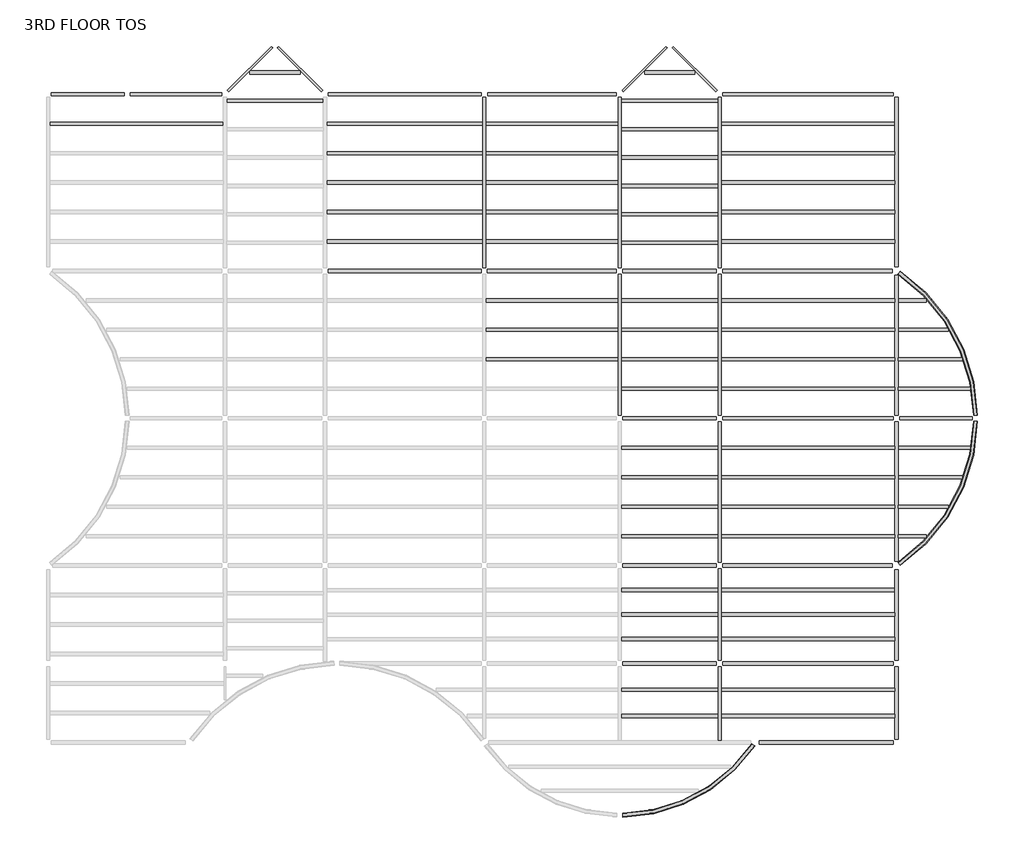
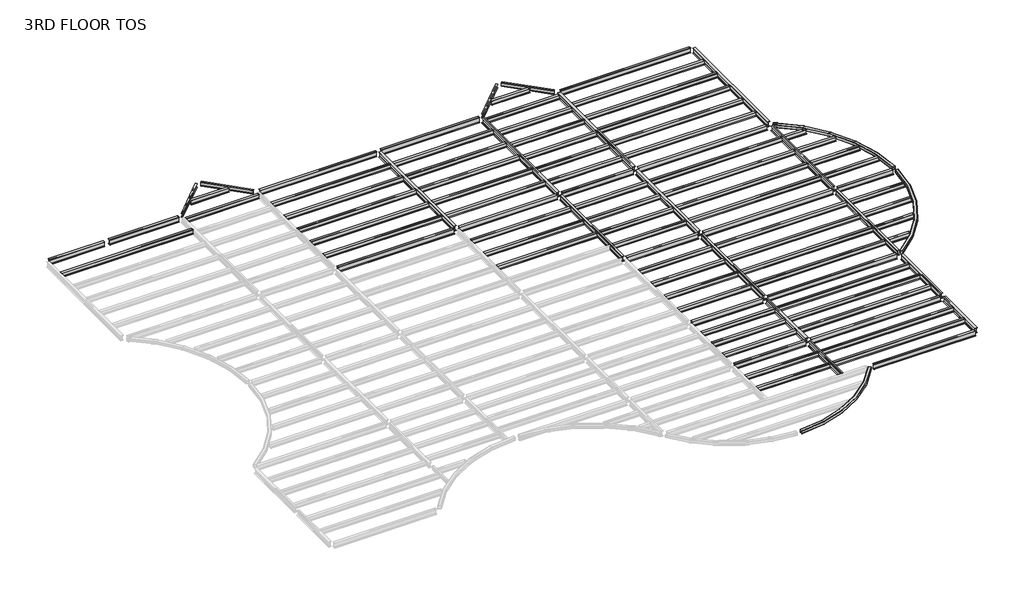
# One storey, part 2 of 2: 99 beams.
"""IFC4 building model written with IfcOpenShell, lengths in millimetres."""

from ifc_helpers import new_model, si_unit, origin, place, context, project, spatial, transform, mapped, element, save
from components import m_hss_square_hss203_2x203_2x9_5_28e91a4e, m_hss_square_hss203_2x203_2x9_5_f31329aa, m_hss_square_hss203_2x203_2x9_5_63507dff, ub_universal_beams_ub254x102x28_7812688d, ub_universal_beams_ub254x102x28_4a38c177, ub_universal_beams_ub305x165x40_c4d0385b, ub_universal_beams_ub305x165x40_19965e16, ub_universal_beams_ub305x165x40_d3abc31d, ub_universal_beams_ub305x165x40_0c73730f, ub_universal_beams_ub305x165x40_2a963f0c, ub_universal_beams_ub305x165x40_9ce7f2ee, ub_universal_beams_ub305x165x40_d184adfd, ub_universal_beams_ub305x165x40_bc7dc938, ub_universal_beams_ub305x165x40_b4233d25, ub_universal_beams_ub356x171x51_c708c058, ub_universal_beams_ub356x171x51_ef72dcdd, ub_universal_beams_ub356x171x51_10b3c54f, ub_universal_beams_ub356x171x51_4c9fd821, ub_universal_beams_ub356x171x51_d1a87c3c, ub_universal_beams_ub356x171x51_fa75724b, ub_universal_beams_ub356x171x51_68db896e, ub_universal_beams_ub356x171x51_c634c4a6, ub_universal_beams_ub356x171x51_995f1560, ub_universal_beams_ub356x171x51_dfc36663, ub_universal_beams_ub356x171x51_11d6b780, ub_universal_beams_ub356x171x51_76b2d20b, ub_universal_beams_ub356x171x51_145ecd4b, ub_universal_beams_ub356x171x51_c7dff8d2, ub_universal_beams_ub356x171x51_8a345439, ub_universal_beams_ub356x171x51_6da510e9, ub_universal_beams_ub356x171x51_e97f8d2e, ub_universal_beams_ub356x171x51_a38b99de, ub_universal_beams_ub356x171x51_d8f4cdde, ub_universal_beams_ub356x171x51_475301e6, ub_universal_beams_ub356x171x51_c03c70fb, ub_universal_beams_ub356x171x51_741bae58

model = new_model("IFC4")

# Units and contexts
model_context = context("Model", 3, world=origin())
ifc_project = project(units=[si_unit("LENGTHUNIT", "METRE", prefix="MILLI")], contexts=[model_context])

# Site, building, storey
site = spatial("IfcSite", under=ifc_project)
building = spatial("IfcBuilding", under=site)
storey = spatial("IfcBuildingStorey", under=building, Name="3RD FLOOR TOS", Elevation=13563.6)

# Beams
placement = place(None, origin())
m_hss_square_hss203_2x203_2x9_5_shape = m_hss_square_hss203_2x203_2x9_5_28e91a4e(model_context)
element("IfcBeam", 1, ObjectType="M_HSS Square : HSS203.2X203.2X9.5", at=placement, inside=storey, context=model_context, shape_type="MappedRepresentation", body=[
    mapped(m_hss_square_hss203_2x203_2x9_5_shape, transform((44027.575, 24539.575, 13462.1), x_axis=(0.8332810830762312, -0.5528495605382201, 0.0), y_axis=(0.5528495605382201, 0.8332810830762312, 0.0), z_axis=(0.0, 0.0, 1.0))),
])
m_hss_square_hss203_2x203_2x9_5_2_shape = m_hss_square_hss203_2x203_2x9_5_f31329aa(model_context)
element("IfcBeam", 2, ObjectType="M_HSS Square : HSS203.2X203.2X9.5", at=placement, inside=storey, context=model_context, shape_type="MappedRepresentation", body=[
    mapped(m_hss_square_hss203_2x203_2x9_5_2_shape, transform((44027.575, 9299.575, 13462.1), x_axis=(0.8332810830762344, 0.5528495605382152, 0.0), y_axis=(-0.5528495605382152, 0.8332810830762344, 0.0), z_axis=(0.0, 0.0, 1.0))),
])
m_hss_square_hss203_2x203_2x9_5_3_shape = m_hss_square_hss203_2x203_2x9_5_63507dff(model_context)
element("IfcBeam", 3, ObjectType="M_HSS Square : HSS203.2X203.2X9.5", at=placement, inside=storey, context=model_context, shape_type="MappedRepresentation", body=[
    mapped(m_hss_square_hss203_2x203_2x9_5_3_shape, transform((36716.575, 155.575, 13462.1), x_axis=(-0.5530174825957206, -0.8331696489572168, 0.0), y_axis=(0.8331696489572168, -0.5530174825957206, 0.0), z_axis=(0.0, 0.0, 1.0))),
])
ub_universal_beams_ub254x102x28_shape = ub_universal_beams_ub254x102x28_7812688d(model_context)
element("IfcBeam", 4, ObjectType="UB-Universal Beams : UB254x102x28", at=placement, inside=storey, context=model_context, shape_type="MappedRepresentation", body=[
    mapped(ub_universal_beams_ub254x102x28_shape, transform((10592.575, 34976.575, 13433.4), x_axis=(0.7071067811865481, 0.7071067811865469, 0.0), y_axis=(-0.7071067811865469, 0.7071067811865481, 0.0), z_axis=(0.0, 0.0, 1.0))),
])
element("IfcBeam", 5, ObjectType="UB-Universal Beams : UB254x102x28", at=placement, inside=storey, context=model_context, shape_type="MappedRepresentation", body=[
    mapped(ub_universal_beams_ub254x102x28_shape, transform((31004.575, 34976.575, 13433.4), x_axis=(0.7071067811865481, 0.7071067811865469, 0.0), y_axis=(-0.7071067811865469, 0.7071067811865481, 0.0), z_axis=(0.0, 0.0, 1.0))),
])
ub_universal_beams_ub254x102x28_2_shape = ub_universal_beams_ub254x102x28_4a38c177(model_context)
element("IfcBeam", 6, ObjectType="UB-Universal Beams : UB254x102x28", at=placement, inside=storey, context=model_context, shape_type="MappedRepresentation", body=[
    mapped(ub_universal_beams_ub254x102x28_2_shape, transform((13178.575, 34976.575, 13433.4), x_axis=(0.707106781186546, -0.707106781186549, 0.0), y_axis=(0.707106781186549, 0.707106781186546, 0.0), z_axis=(0.0, 0.0, 1.0))),
])
element("IfcBeam", 7, ObjectType="UB-Universal Beams : UB254x102x28", at=placement, inside=storey, context=model_context, shape_type="MappedRepresentation", body=[
    mapped(ub_universal_beams_ub254x102x28_2_shape, transform((33590.575, 34976.575, 13433.4), x_axis=(0.7071067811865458, -0.7071067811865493, 0.0), y_axis=(0.7071067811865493, 0.7071067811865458, 0.0), z_axis=(0.0, 0.0, 1.0))),
])
ub_universal_beams_ub305x165x40_shape = ub_universal_beams_ub305x165x40_c4d0385b(model_context)
element("IfcBeam", 8, ObjectType="UB-Universal Beams : UB305x165x40", at=placement, inside=storey, context=model_context, shape_type="MappedRepresentation", body=[
    mapped(ub_universal_beams_ub305x165x40_shape, transform((4727.575, 32159.575, 13411.9), x_axis=(1.0, 0.0, 0.0), y_axis=(0.0, 1.0, 0.0), z_axis=(0.0, 0.0, 1.0))),
])
element("IfcBeam", 9, ObjectType="UB-Universal Beams : UB305x165x40", at=placement, inside=storey, context=model_context, shape_type="MappedRepresentation", body=[
    mapped(ub_universal_beams_ub305x165x40_shape, transform((39455.575, 32159.575, 13411.9), x_axis=(1.0, 0.0, 0.0), y_axis=(0.0, 1.0, 0.0), z_axis=(0.0, 0.0, 1.0))),
])
element("IfcBeam", 10, ObjectType="UB-Universal Beams : UB305x165x40", at=placement, inside=storey, context=model_context, shape_type="MappedRepresentation", body=[
    mapped(ub_universal_beams_ub305x165x40_shape, transform((39455.575, 30635.575, 13411.9), x_axis=(1.0, 0.0, 0.0), y_axis=(0.0, 1.0, 0.0), z_axis=(0.0, 0.0, 1.0))),
])
element("IfcBeam", 11, ObjectType="UB-Universal Beams : UB305x165x40", at=placement, inside=storey, context=model_context, shape_type="MappedRepresentation", body=[
    mapped(ub_universal_beams_ub305x165x40_shape, transform((39455.575, 29111.575, 13411.9), x_axis=(1.0, 0.0, 0.0), y_axis=(0.0, 1.0, 0.0), z_axis=(0.0, 0.0, 1.0))),
])
element("IfcBeam", 12, ObjectType="UB-Universal Beams : UB305x165x40", at=placement, inside=storey, context=model_context, shape_type="MappedRepresentation", body=[
    mapped(ub_universal_beams_ub305x165x40_shape, transform((39455.575, 27587.575, 13411.9), x_axis=(1.0, 0.0, 0.0), y_axis=(0.0, 1.0, 0.0), z_axis=(0.0, 0.0, 1.0))),
])
element("IfcBeam", 13, ObjectType="UB-Universal Beams : UB305x165x40", at=placement, inside=storey, context=model_context, shape_type="MappedRepresentation", body=[
    mapped(ub_universal_beams_ub305x165x40_shape, transform((39455.575, 26063.575, 13411.9), x_axis=(1.0, 0.0, 0.0), y_axis=(0.0, 1.0, 0.0), z_axis=(0.0, 0.0, 1.0))),
])
element("IfcBeam", 14, ObjectType="UB-Universal Beams : UB305x165x40", at=placement, inside=storey, context=model_context, shape_type="MappedRepresentation", body=[
    mapped(ub_universal_beams_ub305x165x40_shape, transform((39455.575, 23015.575, 13411.9), x_axis=(1.0, 0.0, 0.0), y_axis=(0.0, 1.0, 0.0), z_axis=(0.0, 0.0, 1.0))),
])
element("IfcBeam", 15, ObjectType="UB-Universal Beams : UB305x165x40", at=placement, inside=storey, context=model_context, shape_type="MappedRepresentation", body=[
    mapped(ub_universal_beams_ub305x165x40_shape, transform((39455.575, 21491.575, 13411.9), x_axis=(1.0, 0.0, 0.0), y_axis=(0.0, 1.0, 0.0), z_axis=(0.0, 0.0, 1.0))),
])
element("IfcBeam", 16, ObjectType="UB-Universal Beams : UB305x165x40", at=placement, inside=storey, context=model_context, shape_type="MappedRepresentation", body=[
    mapped(ub_universal_beams_ub305x165x40_shape, transform((39455.575, 19967.575, 13411.9), x_axis=(1.0, 0.0, 0.0), y_axis=(0.0, 1.0, 0.0), z_axis=(0.0, 0.0, 1.0))),
])
element("IfcBeam", 17, ObjectType="UB-Universal Beams : UB305x165x40", at=placement, inside=storey, context=model_context, shape_type="MappedRepresentation", body=[
    mapped(ub_universal_beams_ub305x165x40_shape, transform((39455.575, 18443.575, 13411.9), x_axis=(1.0, 0.0, 0.0), y_axis=(0.0, 1.0, 0.0), z_axis=(0.0, 0.0, 1.0))),
])
element("IfcBeam", 18, ObjectType="UB-Universal Beams : UB305x165x40", at=placement, inside=storey, context=model_context, shape_type="MappedRepresentation", body=[
    mapped(ub_universal_beams_ub305x165x40_shape, transform((39455.575, 15395.575, 13411.9), x_axis=(1.0, 0.0, 0.0), y_axis=(0.0, 1.0, 0.0), z_axis=(0.0, 0.0, 1.0))),
])
element("IfcBeam", 19, ObjectType="UB-Universal Beams : UB305x165x40", at=placement, inside=storey, context=model_context, shape_type="MappedRepresentation", body=[
    mapped(ub_universal_beams_ub305x165x40_shape, transform((39455.575, 13871.575, 13411.9), x_axis=(1.0, 0.0, 0.0), y_axis=(0.0, 1.0, 0.0), z_axis=(0.0, 0.0, 1.0))),
])
element("IfcBeam", 20, ObjectType="UB-Universal Beams : UB305x165x40", at=placement, inside=storey, context=model_context, shape_type="MappedRepresentation", body=[
    mapped(ub_universal_beams_ub305x165x40_shape, transform((39455.575, 12347.575, 13411.9), x_axis=(1.0, 0.0, 0.0), y_axis=(0.0, 1.0, 0.0), z_axis=(0.0, 0.0, 1.0))),
])
element("IfcBeam", 21, ObjectType="UB-Universal Beams : UB305x165x40", at=placement, inside=storey, context=model_context, shape_type="MappedRepresentation", body=[
    mapped(ub_universal_beams_ub305x165x40_shape, transform((39455.575, 10823.575, 13411.9), x_axis=(1.0, 0.0, 0.0), y_axis=(0.0, 1.0, 0.0), z_axis=(0.0, 0.0, 1.0))),
])
element("IfcBeam", 22, ObjectType="UB-Universal Beams : UB305x165x40", at=placement, inside=storey, context=model_context, shape_type="MappedRepresentation", body=[
    mapped(ub_universal_beams_ub305x165x40_shape, transform((39455.575, 5508.325, 13411.9), x_axis=(-1.0, 0.0, 0.0), y_axis=(0.0, -1.0, 0.0), z_axis=(0.0, 0.0, 1.0))),
])
element("IfcBeam", 23, ObjectType="UB-Universal Beams : UB305x165x40", at=placement, inside=storey, context=model_context, shape_type="MappedRepresentation", body=[
    mapped(ub_universal_beams_ub305x165x40_shape, transform((39455.575, 6772.075, 13411.9), x_axis=(-1.0, 0.0, 0.0), y_axis=(0.0, -1.0, 0.0), z_axis=(0.0, 0.0, 1.0))),
])
element("IfcBeam", 24, ObjectType="UB-Universal Beams : UB305x165x40", at=placement, inside=storey, context=model_context, shape_type="MappedRepresentation", body=[
    mapped(ub_universal_beams_ub305x165x40_shape, transform((39455.575, 8035.825, 13411.9), x_axis=(-1.0, 0.0, 0.0), y_axis=(0.0, -1.0, 0.0), z_axis=(0.0, 0.0, 1.0))),
])
element("IfcBeam", 25, ObjectType="UB-Universal Beams : UB305x165x40", at=placement, inside=storey, context=model_context, shape_type="MappedRepresentation", body=[
    mapped(ub_universal_beams_ub305x165x40_shape, transform((39455.575, 1518.575, 13411.9), x_axis=(-1.0, 0.0, 0.0), y_axis=(0.0, -1.0, 0.0), z_axis=(0.0, 0.0, 1.0))),
])
element("IfcBeam", 26, ObjectType="UB-Universal Beams : UB305x165x40", at=placement, inside=storey, context=model_context, shape_type="MappedRepresentation", body=[
    mapped(ub_universal_beams_ub305x165x40_shape, transform((39455.575, 2881.575, 13411.9), x_axis=(-1.0, 0.0, 0.0), y_axis=(0.0, -1.0, 0.0), z_axis=(0.0, 0.0, 1.0))),
])
ub_universal_beams_ub305x165x40_2_shape = ub_universal_beams_ub305x165x40_19965e16(model_context)
element("IfcBeam", 27, ObjectType="UB-Universal Beams : UB305x165x40", at=placement, inside=storey, context=model_context, shape_type="MappedRepresentation", body=[
    mapped(ub_universal_beams_ub305x165x40_2_shape, transform((11885.575, 34803.325, 13411.9), x_axis=(1.0, 0.0, 0.0), y_axis=(0.0, 1.0, 0.0), z_axis=(0.0, 0.0, 1.0))),
])
element("IfcBeam", 28, ObjectType="UB-Universal Beams : UB305x165x40", at=placement, inside=storey, context=model_context, shape_type="MappedRepresentation", body=[
    mapped(ub_universal_beams_ub305x165x40_2_shape, transform((32297.575, 34803.325, 13411.9), x_axis=(1.0, 0.0, 0.0), y_axis=(0.0, 1.0, 0.0), z_axis=(0.0, 0.0, 1.0))),
])
ub_universal_beams_ub305x165x40_3_shape = ub_universal_beams_ub305x165x40_d3abc31d(model_context)
element("IfcBeam", 29, ObjectType="UB-Universal Beams : UB305x165x40", at=placement, inside=storey, context=model_context, shape_type="MappedRepresentation", body=[
    mapped(ub_universal_beams_ub305x165x40_3_shape, transform((11885.575, 33337.075, 13411.9), x_axis=(1.0, 0.0, 0.0), y_axis=(0.0, 1.0, 0.0), z_axis=(0.0, 0.0, 1.0))),
])
element("IfcBeam", 30, ObjectType="UB-Universal Beams : UB305x165x40", at=placement, inside=storey, context=model_context, shape_type="MappedRepresentation", body=[
    mapped(ub_universal_beams_ub305x165x40_3_shape, transform((32297.575, 33337.075, 13411.9), x_axis=(1.0, 0.0, 0.0), y_axis=(0.0, 1.0, 0.0), z_axis=(0.0, 0.0, 1.0))),
])
element("IfcBeam", 31, ObjectType="UB-Universal Beams : UB305x165x40", at=placement, inside=storey, context=model_context, shape_type="MappedRepresentation", body=[
    mapped(ub_universal_beams_ub305x165x40_3_shape, transform((32297.575, 31870.825, 13411.9), x_axis=(1.0, 0.0, 0.0), y_axis=(0.0, 1.0, 0.0), z_axis=(0.0, 0.0, 1.0))),
])
element("IfcBeam", 32, ObjectType="UB-Universal Beams : UB305x165x40", at=placement, inside=storey, context=model_context, shape_type="MappedRepresentation", body=[
    mapped(ub_universal_beams_ub305x165x40_3_shape, transform((32297.575, 30404.575, 13411.9), x_axis=(1.0, 0.0, 0.0), y_axis=(0.0, 1.0, 0.0), z_axis=(0.0, 0.0, 1.0))),
])
element("IfcBeam", 33, ObjectType="UB-Universal Beams : UB305x165x40", at=placement, inside=storey, context=model_context, shape_type="MappedRepresentation", body=[
    mapped(ub_universal_beams_ub305x165x40_3_shape, transform((32297.575, 28938.325, 13411.9), x_axis=(1.0, 0.0, 0.0), y_axis=(0.0, 1.0, 0.0), z_axis=(0.0, 0.0, 1.0))),
])
element("IfcBeam", 34, ObjectType="UB-Universal Beams : UB305x165x40", at=placement, inside=storey, context=model_context, shape_type="MappedRepresentation", body=[
    mapped(ub_universal_beams_ub305x165x40_3_shape, transform((32297.575, 27472.075, 13411.9), x_axis=(1.0, 0.0, 0.0), y_axis=(0.0, 1.0, 0.0), z_axis=(0.0, 0.0, 1.0))),
])
element("IfcBeam", 35, ObjectType="UB-Universal Beams : UB305x165x40", at=placement, inside=storey, context=model_context, shape_type="MappedRepresentation", body=[
    mapped(ub_universal_beams_ub305x165x40_3_shape, transform((32297.575, 26005.825, 13411.9), x_axis=(1.0, 0.0, 0.0), y_axis=(0.0, 1.0, 0.0), z_axis=(0.0, 0.0, 1.0))),
])
element("IfcBeam", 36, ObjectType="UB-Universal Beams : UB305x165x40", at=placement, inside=storey, context=model_context, shape_type="MappedRepresentation", body=[
    mapped(ub_universal_beams_ub305x165x40_3_shape, transform((32297.575, 1518.575, 13411.9), x_axis=(-1.0, 0.0, 0.0), y_axis=(0.0, -1.0, 0.0), z_axis=(0.0, 0.0, 1.0))),
])
element("IfcBeam", 37, ObjectType="UB-Universal Beams : UB305x165x40", at=placement, inside=storey, context=model_context, shape_type="MappedRepresentation", body=[
    mapped(ub_universal_beams_ub305x165x40_3_shape, transform((32297.575, 2881.575, 13411.9), x_axis=(-1.0, 0.0, 0.0), y_axis=(0.0, -1.0, 0.0), z_axis=(0.0, 0.0, 1.0))),
])
element("IfcBeam", 38, ObjectType="UB-Universal Beams : UB305x165x40", at=placement, inside=storey, context=model_context, shape_type="MappedRepresentation", body=[
    mapped(ub_universal_beams_ub305x165x40_3_shape, transform((32297.575, 5508.325, 13411.9), x_axis=(-1.0, 0.0, 0.0), y_axis=(0.0, -1.0, 0.0), z_axis=(0.0, 0.0, 1.0))),
])
element("IfcBeam", 39, ObjectType="UB-Universal Beams : UB305x165x40", at=placement, inside=storey, context=model_context, shape_type="MappedRepresentation", body=[
    mapped(ub_universal_beams_ub305x165x40_3_shape, transform((32297.575, 6772.075, 13411.9), x_axis=(-1.0, 0.0, 0.0), y_axis=(0.0, -1.0, 0.0), z_axis=(0.0, 0.0, 1.0))),
])
element("IfcBeam", 40, ObjectType="UB-Universal Beams : UB305x165x40", at=placement, inside=storey, context=model_context, shape_type="MappedRepresentation", body=[
    mapped(ub_universal_beams_ub305x165x40_3_shape, transform((32297.575, 8035.825, 13411.9), x_axis=(-1.0, 0.0, 0.0), y_axis=(0.0, -1.0, 0.0), z_axis=(0.0, 0.0, 1.0))),
])
element("IfcBeam", 41, ObjectType="UB-Universal Beams : UB305x165x40", at=placement, inside=storey, context=model_context, shape_type="MappedRepresentation", body=[
    mapped(ub_universal_beams_ub305x165x40_3_shape, transform((32297.575, 15395.575, 13411.9), x_axis=(1.0, 0.0, 0.0), y_axis=(0.0, 1.0, 0.0), z_axis=(0.0, 0.0, 1.0))),
])
element("IfcBeam", 42, ObjectType="UB-Universal Beams : UB305x165x40", at=placement, inside=storey, context=model_context, shape_type="MappedRepresentation", body=[
    mapped(ub_universal_beams_ub305x165x40_3_shape, transform((32297.575, 13871.575, 13411.9), x_axis=(1.0, 0.0, 0.0), y_axis=(0.0, 1.0, 0.0), z_axis=(0.0, 0.0, 1.0))),
])
element("IfcBeam", 43, ObjectType="UB-Universal Beams : UB305x165x40", at=placement, inside=storey, context=model_context, shape_type="MappedRepresentation", body=[
    mapped(ub_universal_beams_ub305x165x40_3_shape, transform((32297.575, 12347.575, 13411.9), x_axis=(1.0, 0.0, 0.0), y_axis=(0.0, 1.0, 0.0), z_axis=(0.0, 0.0, 1.0))),
])
element("IfcBeam", 44, ObjectType="UB-Universal Beams : UB305x165x40", at=placement, inside=storey, context=model_context, shape_type="MappedRepresentation", body=[
    mapped(ub_universal_beams_ub305x165x40_3_shape, transform((32297.575, 10823.575, 13411.9), x_axis=(1.0, 0.0, 0.0), y_axis=(0.0, 1.0, 0.0), z_axis=(0.0, 0.0, 1.0))),
])
element("IfcBeam", 45, ObjectType="UB-Universal Beams : UB305x165x40", at=placement, inside=storey, context=model_context, shape_type="MappedRepresentation", body=[
    mapped(ub_universal_beams_ub305x165x40_3_shape, transform((32297.575, 23015.575, 13411.9), x_axis=(1.0, 0.0, 0.0), y_axis=(0.0, 1.0, 0.0), z_axis=(0.0, 0.0, 1.0))),
])
element("IfcBeam", 46, ObjectType="UB-Universal Beams : UB305x165x40", at=placement, inside=storey, context=model_context, shape_type="MappedRepresentation", body=[
    mapped(ub_universal_beams_ub305x165x40_3_shape, transform((32297.575, 21491.575, 13411.9), x_axis=(1.0, 0.0, 0.0), y_axis=(0.0, 1.0, 0.0), z_axis=(0.0, 0.0, 1.0))),
])
element("IfcBeam", 47, ObjectType="UB-Universal Beams : UB305x165x40", at=placement, inside=storey, context=model_context, shape_type="MappedRepresentation", body=[
    mapped(ub_universal_beams_ub305x165x40_3_shape, transform((32297.575, 19967.575, 13411.9), x_axis=(1.0, 0.0, 0.0), y_axis=(0.0, 1.0, 0.0), z_axis=(0.0, 0.0, 1.0))),
])
element("IfcBeam", 48, ObjectType="UB-Universal Beams : UB305x165x40", at=placement, inside=storey, context=model_context, shape_type="MappedRepresentation", body=[
    mapped(ub_universal_beams_ub305x165x40_3_shape, transform((32297.575, 18443.575, 13411.9), x_axis=(1.0, 0.0, 0.0), y_axis=(0.0, 1.0, 0.0), z_axis=(0.0, 0.0, 1.0))),
])
ub_universal_beams_ub305x165x40_4_shape = ub_universal_beams_ub305x165x40_0c73730f(model_context)
element("IfcBeam", 49, ObjectType="UB-Universal Beams : UB305x165x40", at=placement, inside=storey, context=model_context, shape_type="MappedRepresentation", body=[
    mapped(ub_universal_beams_ub305x165x40_4_shape, transform((18591.075, 32159.575, 13411.9), x_axis=(1.0, 0.0, 0.0), y_axis=(0.0, 1.0, 0.0), z_axis=(0.0, 0.0, 1.0))),
])
element("IfcBeam", 50, ObjectType="UB-Universal Beams : UB305x165x40", at=placement, inside=storey, context=model_context, shape_type="MappedRepresentation", body=[
    mapped(ub_universal_beams_ub305x165x40_4_shape, transform((18591.075, 30635.575, 13411.9), x_axis=(1.0, 0.0, 0.0), y_axis=(0.0, 1.0, 0.0), z_axis=(0.0, 0.0, 1.0))),
])
element("IfcBeam", 51, ObjectType="UB-Universal Beams : UB305x165x40", at=placement, inside=storey, context=model_context, shape_type="MappedRepresentation", body=[
    mapped(ub_universal_beams_ub305x165x40_4_shape, transform((18591.075, 29111.575, 13411.9), x_axis=(1.0, 0.0, 0.0), y_axis=(0.0, 1.0, 0.0), z_axis=(0.0, 0.0, 1.0))),
])
element("IfcBeam", 52, ObjectType="UB-Universal Beams : UB305x165x40", at=placement, inside=storey, context=model_context, shape_type="MappedRepresentation", body=[
    mapped(ub_universal_beams_ub305x165x40_4_shape, transform((18591.075, 27587.575, 13411.9), x_axis=(1.0, 0.0, 0.0), y_axis=(0.0, 1.0, 0.0), z_axis=(0.0, 0.0, 1.0))),
])
element("IfcBeam", 53, ObjectType="UB-Universal Beams : UB305x165x40", at=placement, inside=storey, context=model_context, shape_type="MappedRepresentation", body=[
    mapped(ub_universal_beams_ub305x165x40_4_shape, transform((18591.075, 26063.575, 13411.9), x_axis=(1.0, 0.0, 0.0), y_axis=(0.0, 1.0, 0.0), z_axis=(0.0, 0.0, 1.0))),
])
ub_universal_beams_ub305x165x40_5_shape = ub_universal_beams_ub305x165x40_2a963f0c(model_context)
element("IfcBeam", 54, ObjectType="UB-Universal Beams : UB305x165x40", at=placement, inside=storey, context=model_context, shape_type="MappedRepresentation", body=[
    mapped(ub_universal_beams_ub305x165x40_5_shape, transform((26211.075, 32159.575, 13411.9), x_axis=(1.0, 0.0, 0.0), y_axis=(0.0, 1.0, 0.0), z_axis=(0.0, 0.0, 1.0))),
])
element("IfcBeam", 55, ObjectType="UB-Universal Beams : UB305x165x40", at=placement, inside=storey, context=model_context, shape_type="MappedRepresentation", body=[
    mapped(ub_universal_beams_ub305x165x40_5_shape, transform((26211.075, 30635.575, 13411.9), x_axis=(1.0, 0.0, 0.0), y_axis=(0.0, 1.0, 0.0), z_axis=(0.0, 0.0, 1.0))),
])
element("IfcBeam", 56, ObjectType="UB-Universal Beams : UB305x165x40", at=placement, inside=storey, context=model_context, shape_type="MappedRepresentation", body=[
    mapped(ub_universal_beams_ub305x165x40_5_shape, transform((26211.075, 29111.575, 13411.9), x_axis=(1.0, 0.0, 0.0), y_axis=(0.0, 1.0, 0.0), z_axis=(0.0, 0.0, 1.0))),
])
element("IfcBeam", 57, ObjectType="UB-Universal Beams : UB305x165x40", at=placement, inside=storey, context=model_context, shape_type="MappedRepresentation", body=[
    mapped(ub_universal_beams_ub305x165x40_5_shape, transform((26211.075, 27587.575, 13411.9), x_axis=(1.0, 0.0, 0.0), y_axis=(0.0, 1.0, 0.0), z_axis=(0.0, 0.0, 1.0))),
])
element("IfcBeam", 58, ObjectType="UB-Universal Beams : UB305x165x40", at=placement, inside=storey, context=model_context, shape_type="MappedRepresentation", body=[
    mapped(ub_universal_beams_ub305x165x40_5_shape, transform((26211.075, 26063.575, 13411.9), x_axis=(1.0, 0.0, 0.0), y_axis=(0.0, 1.0, 0.0), z_axis=(0.0, 0.0, 1.0))),
])
element("IfcBeam", 59, ObjectType="UB-Universal Beams : UB305x165x40", at=placement, inside=storey, context=model_context, shape_type="MappedRepresentation", body=[
    mapped(ub_universal_beams_ub305x165x40_5_shape, transform((26211.075, 23015.575, 13411.9), x_axis=(1.0, 0.0, 0.0), y_axis=(0.0, 1.0, 0.0), z_axis=(0.0, 0.0, 1.0))),
])
element("IfcBeam", 60, ObjectType="UB-Universal Beams : UB305x165x40", at=placement, inside=storey, context=model_context, shape_type="MappedRepresentation", body=[
    mapped(ub_universal_beams_ub305x165x40_5_shape, transform((26211.075, 21491.575, 13411.9), x_axis=(1.0, 0.0, 0.0), y_axis=(0.0, 1.0, 0.0), z_axis=(0.0, 0.0, 1.0))),
])
element("IfcBeam", 61, ObjectType="UB-Universal Beams : UB305x165x40", at=placement, inside=storey, context=model_context, shape_type="MappedRepresentation", body=[
    mapped(ub_universal_beams_ub305x165x40_5_shape, transform((26211.075, 19967.575, 13411.9), x_axis=(1.0, 0.0, 0.0), y_axis=(0.0, 1.0, 0.0), z_axis=(0.0, 0.0, 1.0))),
])
ub_universal_beams_ub305x165x40_6_shape = ub_universal_beams_ub305x165x40_9ce7f2ee(model_context)
element("IfcBeam", 62, ObjectType="UB-Universal Beams : UB305x165x40", at=placement, inside=storey, context=model_context, shape_type="MappedRepresentation", body=[
    mapped(ub_universal_beams_ub305x165x40_6_shape, transform((44907.9405309, 23015.575, 13411.9), x_axis=(1.0, 0.0, 0.0), y_axis=(0.0, 1.0, 0.0), z_axis=(0.0, 0.0, 1.0))),
])
element("IfcBeam", 63, ObjectType="UB-Universal Beams : UB305x165x40", at=placement, inside=storey, context=model_context, shape_type="MappedRepresentation", body=[
    mapped(ub_universal_beams_ub305x165x40_6_shape, transform((44907.9405309, 10823.575, 13411.9), x_axis=(1.0, 0.0, 0.0), y_axis=(0.0, 1.0, 0.0), z_axis=(0.0, 0.0, 1.0))),
])
ub_universal_beams_ub305x165x40_7_shape = ub_universal_beams_ub305x165x40_d184adfd(model_context)
element("IfcBeam", 64, ObjectType="UB-Universal Beams : UB305x165x40", at=placement, inside=storey, context=model_context, shape_type="MappedRepresentation", body=[
    mapped(ub_universal_beams_ub305x165x40_7_shape, transform((45459.5874928, 21491.575, 13411.9), x_axis=(1.0, 0.0, 0.0), y_axis=(0.0, 1.0, 0.0), z_axis=(0.0, 0.0, 1.0))),
])
element("IfcBeam", 65, ObjectType="UB-Universal Beams : UB305x165x40", at=placement, inside=storey, context=model_context, shape_type="MappedRepresentation", body=[
    mapped(ub_universal_beams_ub305x165x40_7_shape, transform((45459.5874928, 12347.575, 13411.9), x_axis=(1.0, 0.0, 0.0), y_axis=(0.0, 1.0, 0.0), z_axis=(0.0, 0.0, 1.0))),
])
ub_universal_beams_ub305x165x40_8_shape = ub_universal_beams_ub305x165x40_bc7dc938(model_context)
element("IfcBeam", 66, ObjectType="UB-Universal Beams : UB305x165x40", at=placement, inside=storey, context=model_context, shape_type="MappedRepresentation", body=[
    mapped(ub_universal_beams_ub305x165x40_8_shape, transform((45810.6153272, 19967.575, 13411.9), x_axis=(1.0, 0.0, 0.0), y_axis=(0.0, 1.0, 0.0), z_axis=(0.0, 0.0, 1.0))),
])
element("IfcBeam", 67, ObjectType="UB-Universal Beams : UB305x165x40", at=placement, inside=storey, context=model_context, shape_type="MappedRepresentation", body=[
    mapped(ub_universal_beams_ub305x165x40_8_shape, transform((45810.6153272, 13871.575, 13411.9), x_axis=(1.0, 0.0, 0.0), y_axis=(0.0, 1.0, 0.0), z_axis=(0.0, 0.0, 1.0))),
])
ub_universal_beams_ub305x165x40_9_shape = ub_universal_beams_ub305x165x40_b4233d25(model_context)
element("IfcBeam", 68, ObjectType="UB-Universal Beams : UB305x165x40", at=placement, inside=storey, context=model_context, shape_type="MappedRepresentation", body=[
    mapped(ub_universal_beams_ub305x165x40_9_shape, transform((46008.1318611, 18443.575, 13411.9), x_axis=(1.0, 0.0, 0.0), y_axis=(0.0, 1.0, 0.0), z_axis=(0.0, 0.0, 1.0))),
])
element("IfcBeam", 69, ObjectType="UB-Universal Beams : UB305x165x40", at=placement, inside=storey, context=model_context, shape_type="MappedRepresentation", body=[
    mapped(ub_universal_beams_ub305x165x40_9_shape, transform((46008.1318611, 15395.575, 13411.9), x_axis=(1.0, 0.0, 0.0), y_axis=(0.0, 1.0, 0.0), z_axis=(0.0, 0.0, 1.0))),
])
ub_universal_beams_ub356x171x51_shape = ub_universal_beams_ub356x171x51_c708c058(model_context)
element("IfcBeam", 70, ObjectType="UB-Universal Beams : UB356x171x51", at=placement, inside=storey, context=model_context, shape_type="MappedRepresentation", body=[
    mapped(ub_universal_beams_ub356x171x51_shape, transform((2200.075, 33683.575, 13386.1), x_axis=(1.0, 0.0, 0.0), y_axis=(0.0, 1.0, 0.0), z_axis=(0.0, 0.0, 1.0))),
])
ub_universal_beams_ub356x171x51_2_shape = ub_universal_beams_ub356x171x51_ef72dcdd(model_context)
element("IfcBeam", 71, ObjectType="UB-Universal Beams : UB356x171x51", at=placement, inside=storey, context=model_context, shape_type="MappedRepresentation", body=[
    mapped(ub_universal_beams_ub356x171x51_2_shape, transform((6772.075, 33683.575, 13386.1), x_axis=(1.0, 0.0, 0.0), y_axis=(0.0, 1.0, 0.0), z_axis=(0.0, 0.0, 1.0))),
])
element("IfcBeam", 72, ObjectType="UB-Universal Beams : UB356x171x51", at=placement, inside=storey, context=model_context, shape_type="MappedRepresentation", body=[
    mapped(ub_universal_beams_ub356x171x51_2_shape, transform((34883.575, 6772.075, 13386.1), x_axis=(0.0, -1.0, 0.0), y_axis=(1.0, 0.0, 0.0), z_axis=(0.0, 0.0, 1.0))),
])
ub_universal_beams_ub356x171x51_3_shape = ub_universal_beams_ub356x171x51_10b3c54f(model_context)
element("IfcBeam", 73, ObjectType="UB-Universal Beams : UB356x171x51", at=placement, inside=storey, context=model_context, shape_type="MappedRepresentation", body=[
    mapped(ub_universal_beams_ub356x171x51_3_shape, transform((18591.075, 33683.575, 13386.1), x_axis=(1.0, 0.0, 0.0), y_axis=(0.0, 1.0, 0.0), z_axis=(0.0, 0.0, 1.0))),
])
ub_universal_beams_ub356x171x51_4_shape = ub_universal_beams_ub356x171x51_4c9fd821(model_context)
element("IfcBeam", 74, ObjectType="UB-Universal Beams : UB356x171x51", at=placement, inside=storey, context=model_context, shape_type="MappedRepresentation", body=[
    mapped(ub_universal_beams_ub356x171x51_4_shape, transform((26211.075, 33683.575, 13386.1), x_axis=(1.0, 0.0, 0.0), y_axis=(0.0, 1.0, 0.0), z_axis=(0.0, 0.0, 1.0))),
])
ub_universal_beams_ub356x171x51_5_shape = ub_universal_beams_ub356x171x51_d1a87c3c(model_context)
element("IfcBeam", 75, ObjectType="UB-Universal Beams : UB356x171x51", at=placement, inside=storey, context=model_context, shape_type="MappedRepresentation", body=[
    mapped(ub_universal_beams_ub356x171x51_5_shape, transform((39455.575, 33683.575, 13386.1), x_axis=(1.0, 0.0, 0.0), y_axis=(0.0, 1.0, 0.0), z_axis=(0.0, 0.0, 1.0))),
])
ub_universal_beams_ub356x171x51_6_shape = ub_universal_beams_ub356x171x51_fa75724b(model_context)
element("IfcBeam", 76, ObjectType="UB-Universal Beams : UB356x171x51", at=placement, inside=storey, context=model_context, shape_type="MappedRepresentation", body=[
    mapped(ub_universal_beams_ub356x171x51_6_shape, transform((44027.575, 29111.575, 13386.1), x_axis=(0.0, -1.0, 0.0), y_axis=(1.0, 0.0, 0.0), z_axis=(0.0, 0.0, 1.0))),
])
ub_universal_beams_ub356x171x51_7_shape = ub_universal_beams_ub356x171x51_68db896e(model_context)
element("IfcBeam", 77, ObjectType="UB-Universal Beams : UB356x171x51", at=placement, inside=storey, context=model_context, shape_type="MappedRepresentation", body=[
    mapped(ub_universal_beams_ub356x171x51_7_shape, transform((44027.575, 6772.075, 13386.1), x_axis=(0.0, -1.0, 0.0), y_axis=(1.0, 0.0, 0.0), z_axis=(0.0, 0.0, 1.0))),
])
ub_universal_beams_ub356x171x51_8_shape = ub_universal_beams_ub356x171x51_c634c4a6(model_context)
element("IfcBeam", 78, ObjectType="UB-Universal Beams : UB356x171x51", at=placement, inside=storey, context=model_context, shape_type="MappedRepresentation", body=[
    mapped(ub_universal_beams_ub356x171x51_8_shape, transform((44027.575, 2200.075, 13386.1), x_axis=(0.0, -1.0, 0.0), y_axis=(1.0, 0.0, 0.0), z_axis=(0.0, 0.0, 1.0))),
])
ub_universal_beams_ub356x171x51_9_shape = ub_universal_beams_ub356x171x51_995f1560(model_context)
element("IfcBeam", 79, ObjectType="UB-Universal Beams : UB356x171x51", at=placement, inside=storey, context=model_context, shape_type="MappedRepresentation", body=[
    mapped(ub_universal_beams_ub356x171x51_9_shape, transform((40372.075, 155.575, 13386.1), x_axis=(-1.0, 0.0, 0.0), y_axis=(0.0, -1.0, 0.0), z_axis=(0.0, 0.0, 1.0))),
])
ub_universal_beams_ub356x171x51_10_shape = ub_universal_beams_ub356x171x51_dfc36663(model_context)
element("IfcBeam", 80, ObjectType="UB-Universal Beams : UB356x171x51", at=placement, inside=storey, context=model_context, shape_type="MappedRepresentation", body=[
    mapped(ub_universal_beams_ub356x171x51_10_shape, transform((46072.075, 16919.575, 13386.1), x_axis=(1.0, 0.0, 0.0), y_axis=(0.0, 1.0, 0.0), z_axis=(0.0, 0.0, 1.0))),
])
ub_universal_beams_ub356x171x51_11_shape = ub_universal_beams_ub356x171x51_11d6b780(model_context)
element("IfcBeam", 81, ObjectType="UB-Universal Beams : UB356x171x51", at=placement, inside=storey, context=model_context, shape_type="MappedRepresentation", body=[
    mapped(ub_universal_beams_ub356x171x51_11_shape, transform((32297.575, 24539.575, 13386.1), x_axis=(1.0, 0.0, 0.0), y_axis=(0.0, 1.0, 0.0), z_axis=(0.0, 0.0, 1.0))),
])
element("IfcBeam", 82, ObjectType="UB-Universal Beams : UB356x171x51", at=placement, inside=storey, context=model_context, shape_type="MappedRepresentation", body=[
    mapped(ub_universal_beams_ub356x171x51_11_shape, transform((32297.575, 9299.575, 13386.1), x_axis=(-1.0, 0.0, 0.0), y_axis=(0.0, -1.0, 0.0), z_axis=(0.0, 0.0, 1.0))),
])
element("IfcBeam", 83, ObjectType="UB-Universal Beams : UB356x171x51", at=placement, inside=storey, context=model_context, shape_type="MappedRepresentation", body=[
    mapped(ub_universal_beams_ub356x171x51_11_shape, transform((32297.575, 16919.575, 13386.1), x_axis=(1.0, 0.0, 0.0), y_axis=(0.0, 1.0, 0.0), z_axis=(0.0, 0.0, 1.0))),
])
element("IfcBeam", 84, ObjectType="UB-Universal Beams : UB356x171x51", at=placement, inside=storey, context=model_context, shape_type="MappedRepresentation", body=[
    mapped(ub_universal_beams_ub356x171x51_11_shape, transform((32297.575, 4244.575, 13386.1), x_axis=(-1.0, 0.0, 0.0), y_axis=(0.0, -1.0, 0.0), z_axis=(0.0, 0.0, 1.0))),
])
ub_universal_beams_ub356x171x51_12_shape = ub_universal_beams_ub356x171x51_76b2d20b(model_context)
element("IfcBeam", 85, ObjectType="UB-Universal Beams : UB356x171x51", at=placement, inside=storey, context=model_context, shape_type="MappedRepresentation", body=[
    mapped(ub_universal_beams_ub356x171x51_12_shape, transform((18591.075, 24539.575, 13386.1), x_axis=(1.0, 0.0, 0.0), y_axis=(0.0, 1.0, 0.0), z_axis=(0.0, 0.0, 1.0))),
])
ub_universal_beams_ub356x171x51_13_shape = ub_universal_beams_ub356x171x51_145ecd4b(model_context)
element("IfcBeam", 86, ObjectType="UB-Universal Beams : UB356x171x51", at=placement, inside=storey, context=model_context, shape_type="MappedRepresentation", body=[
    mapped(ub_universal_beams_ub356x171x51_13_shape, transform((26211.075, 24539.575, 13386.1), x_axis=(1.0, 0.0, 0.0), y_axis=(0.0, 1.0, 0.0), z_axis=(0.0, 0.0, 1.0))),
])
ub_universal_beams_ub356x171x51_14_shape = ub_universal_beams_ub356x171x51_c7dff8d2(model_context)
element("IfcBeam", 87, ObjectType="UB-Universal Beams : UB356x171x51", at=placement, inside=storey, context=model_context, shape_type="MappedRepresentation", body=[
    mapped(ub_universal_beams_ub356x171x51_14_shape, transform((39455.575, 24539.575, 13386.1), x_axis=(1.0, 0.0, 0.0), y_axis=(0.0, 1.0, 0.0), z_axis=(0.0, 0.0, 1.0))),
])
ub_universal_beams_ub356x171x51_15_shape = ub_universal_beams_ub356x171x51_8a345439(model_context)
element("IfcBeam", 88, ObjectType="UB-Universal Beams : UB356x171x51", at=placement, inside=storey, context=model_context, shape_type="MappedRepresentation", body=[
    mapped(ub_universal_beams_ub356x171x51_15_shape, transform((44027.575, 20729.575, 13386.1), x_axis=(0.0, -1.0, 0.0), y_axis=(1.0, 0.0, 0.0), z_axis=(0.0, 0.0, 1.0))),
])
ub_universal_beams_ub356x171x51_16_shape = ub_universal_beams_ub356x171x51_6da510e9(model_context)
element("IfcBeam", 89, ObjectType="UB-Universal Beams : UB356x171x51", at=placement, inside=storey, context=model_context, shape_type="MappedRepresentation", body=[
    mapped(ub_universal_beams_ub356x171x51_16_shape, transform((44027.575, 13109.575, 13386.1), x_axis=(0.0, -1.0, 0.0), y_axis=(1.0, 0.0, 0.0), z_axis=(0.0, 0.0, 1.0))),
])
ub_universal_beams_ub356x171x51_17_shape = ub_universal_beams_ub356x171x51_e97f8d2e(model_context)
element("IfcBeam", 90, ObjectType="UB-Universal Beams : UB356x171x51", at=placement, inside=storey, context=model_context, shape_type="MappedRepresentation", body=[
    mapped(ub_universal_beams_ub356x171x51_17_shape, transform((39455.575, 9299.575, 13386.1), x_axis=(-1.0, 0.0, 0.0), y_axis=(0.0, -1.0, 0.0), z_axis=(0.0, 0.0, 1.0))),
])
ub_universal_beams_ub356x171x51_18_shape = ub_universal_beams_ub356x171x51_a38b99de(model_context)
element("IfcBeam", 91, ObjectType="UB-Universal Beams : UB356x171x51", at=placement, inside=storey, context=model_context, shape_type="MappedRepresentation", body=[
    mapped(ub_universal_beams_ub356x171x51_18_shape, transform((34883.575, 20729.575, 13386.1), x_axis=(0.0, -1.0, 0.0), y_axis=(1.0, 0.0, 0.0), z_axis=(0.0, 0.0, 1.0))),
])
element("IfcBeam", 92, ObjectType="UB-Universal Beams : UB356x171x51", at=placement, inside=storey, context=model_context, shape_type="MappedRepresentation", body=[
    mapped(ub_universal_beams_ub356x171x51_18_shape, transform((34883.575, 13109.575, 13386.1), x_axis=(0.0, -1.0, 0.0), y_axis=(1.0, 0.0, 0.0), z_axis=(0.0, 0.0, 1.0))),
])
element("IfcBeam", 93, ObjectType="UB-Universal Beams : UB356x171x51", at=placement, inside=storey, context=model_context, shape_type="MappedRepresentation", body=[
    mapped(ub_universal_beams_ub356x171x51_18_shape, transform((29711.575, 20729.575, 13386.1), x_axis=(0.0, 1.0, 0.0), y_axis=(-1.0, 0.0, 0.0), z_axis=(0.0, 0.0, 1.0))),
])
ub_universal_beams_ub356x171x51_19_shape = ub_universal_beams_ub356x171x51_d8f4cdde(model_context)
element("IfcBeam", 94, ObjectType="UB-Universal Beams : UB356x171x51", at=placement, inside=storey, context=model_context, shape_type="MappedRepresentation", body=[
    mapped(ub_universal_beams_ub356x171x51_19_shape, transform((29711.575, 29111.575, 13386.1), x_axis=(0.0, 1.0, 0.0), y_axis=(-1.0, 0.0, 0.0), z_axis=(0.0, 0.0, 1.0))),
])
ub_universal_beams_ub356x171x51_20_shape = ub_universal_beams_ub356x171x51_475301e6(model_context)
element("IfcBeam", 95, ObjectType="UB-Universal Beams : UB356x171x51", at=placement, inside=storey, context=model_context, shape_type="MappedRepresentation", body=[
    mapped(ub_universal_beams_ub356x171x51_20_shape, transform((39455.575, 16919.575, 13386.1), x_axis=(1.0, 0.0, 0.0), y_axis=(0.0, 1.0, 0.0), z_axis=(0.0, 0.0, 1.0))),
])
element("IfcBeam", 96, ObjectType="UB-Universal Beams : UB356x171x51", at=placement, inside=storey, context=model_context, shape_type="MappedRepresentation", body=[
    mapped(ub_universal_beams_ub356x171x51_20_shape, transform((39455.575, 4244.575, 13386.1), x_axis=(-1.0, 0.0, 0.0), y_axis=(0.0, -1.0, 0.0), z_axis=(0.0, 0.0, 1.0))),
])
ub_universal_beams_ub356x171x51_21_shape = ub_universal_beams_ub356x171x51_c03c70fb(model_context)
element("IfcBeam", 97, ObjectType="UB-Universal Beams : UB356x171x51", at=placement, inside=storey, context=model_context, shape_type="MappedRepresentation", body=[
    mapped(ub_universal_beams_ub356x171x51_21_shape, transform((34883.575, 29111.575, 13386.1), x_axis=(0.0, -1.0, 0.0), y_axis=(1.0, 0.0, 0.0), z_axis=(0.0, 0.0, 1.0))),
])
element("IfcBeam", 98, ObjectType="UB-Universal Beams : UB356x171x51", at=placement, inside=storey, context=model_context, shape_type="MappedRepresentation", body=[
    mapped(ub_universal_beams_ub356x171x51_21_shape, transform((22710.575, 29111.575, 13386.1), x_axis=(0.0, -1.0, 0.0), y_axis=(1.0, 0.0, 0.0), z_axis=(0.0, 0.0, 1.0))),
])
ub_universal_beams_ub356x171x51_22_shape = ub_universal_beams_ub356x171x51_741bae58(model_context)
element("IfcBeam", 99, ObjectType="UB-Universal Beams : UB356x171x51", at=placement, inside=storey, context=model_context, shape_type="MappedRepresentation", body=[
    mapped(ub_universal_beams_ub356x171x51_22_shape, transform((34883.575, 2200.075, 13386.1), x_axis=(0.0, -1.0, 0.0), y_axis=(1.0, 0.0, 0.0), z_axis=(0.0, 0.0, 1.0))),
])

save(model, "model.ifc")
